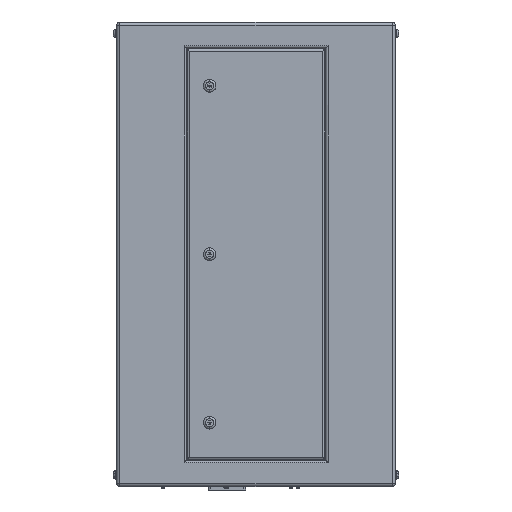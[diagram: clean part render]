
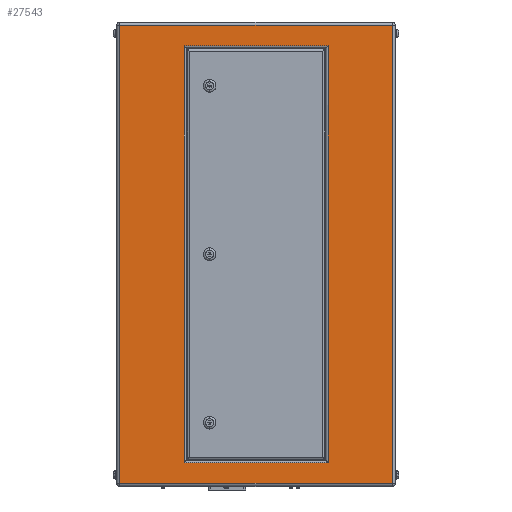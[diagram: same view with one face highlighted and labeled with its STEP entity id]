
A CAD part, left-side view. The second image highlights one B-rep face of the part: STEP entity #27543.
In plain terms, the highlighted planar face has unit normal (-1, 0, 0).
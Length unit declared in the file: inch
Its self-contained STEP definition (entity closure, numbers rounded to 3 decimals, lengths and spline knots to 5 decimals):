
#1008 = VECTOR ( 'NONE', #29456, 39.37008 ) ;
#1024 = CARTESIAN_POINT ( 'NONE',  ( -18., -11.734, -19.734 ) ) ;
#1830 = VERTEX_POINT ( 'NONE', #34546 ) ;
#2083 = ORIENTED_EDGE ( 'NONE', *, *, #27177, .T. ) ;
#2595 = EDGE_LOOP ( 'NONE', ( #3543, #12908, #31142, #10396 ) ) ;
#2892 = VERTEX_POINT ( 'NONE', #32557 ) ;
#3420 = CARTESIAN_POINT ( 'NONE',  ( -18., 6.2, -17.95 ) ) ;
#3543 = ORIENTED_EDGE ( 'NONE', *, *, #34071, .T. ) ;
#4670 = VECTOR ( 'NONE', #31566, 39.37008 ) ;
#4745 = EDGE_CURVE ( 'NONE', #2892, #26306, #34237, .T. ) ;
#5028 = VECTOR ( 'NONE', #30152, 39.37008 ) ;
#5393 = CARTESIAN_POINT ( 'NONE',  ( -18., 11.734, -19.734 ) ) ;
#5753 = VERTEX_POINT ( 'NONE', #16749 ) ;
#6389 = CARTESIAN_POINT ( 'NONE',  ( -18., 6.2, 17.75 ) ) ;
#7717 = VECTOR ( 'NONE', #29640, 39.37008 ) ;
#8129 = CARTESIAN_POINT ( 'NONE',  ( -18., 12., -19.734 ) ) ;
#9264 = VECTOR ( 'NONE', #16254, 39.37008 ) ;
#9566 = DIRECTION ( 'NONE',  ( 1., 0., 0. ) ) ;
#10246 = CARTESIAN_POINT ( 'NONE',  ( -18., -6.2, -17.95 ) ) ;
#10301 = DIRECTION ( 'NONE',  ( 0., 0., -1. ) ) ;
#10396 = ORIENTED_EDGE ( 'NONE', *, *, #36507, .T. ) ;
#11301 = VERTEX_POINT ( 'NONE', #5393 ) ;
#11856 = DIRECTION ( 'NONE',  ( 0., 0., 1. ) ) ;
#12908 = ORIENTED_EDGE ( 'NONE', *, *, #14608, .T. ) ;
#12949 = FACE_OUTER_BOUND ( 'NONE', #2595, .T. ) ;
#13519 = CARTESIAN_POINT ( 'NONE',  ( -18., -6.2, 17.95 ) ) ;
#14389 = CARTESIAN_POINT ( 'NONE',  ( -18., 6., -17.95 ) ) ;
#14608 = EDGE_CURVE ( 'NONE', #26510, #5753, #30439, .T. ) ;
#14759 = LINE ( 'NONE', #14389, #22171 ) ;
#15192 = PLANE ( 'NONE',  #34165 ) ;
#15581 = ORIENTED_EDGE ( 'NONE', *, *, #29249, .T. ) ;
#16254 = DIRECTION ( 'NONE',  ( 0., -1., 0. ) ) ;
#16749 = CARTESIAN_POINT ( 'NONE',  ( -18., -11.734, 19.734 ) ) ;
#16813 = CARTESIAN_POINT ( 'NONE',  ( -18., -6., 17.95 ) ) ;
#19160 = VERTEX_POINT ( 'NONE', #3420 ) ;
#20525 = VECTOR ( 'NONE', #24752, 39.37008 ) ;
#22171 = VECTOR ( 'NONE', #34839, 39.37008 ) ;
#23119 = EDGE_CURVE ( 'NONE', #5753, #1830, #35657, .T. ) ;
#23762 = CARTESIAN_POINT ( 'NONE',  ( -18., 11.734, -20. ) ) ;
#24752 = DIRECTION ( 'NONE',  ( 0., 0., 1. ) ) ;
#24788 = EDGE_LOOP ( 'NONE', ( #34562, #2083, #15581, #34739 ) ) ;
#26306 = VERTEX_POINT ( 'NONE', #13519 ) ;
#26510 = VERTEX_POINT ( 'NONE', #1024 ) ;
#27172 = EDGE_CURVE ( 'NONE', #19160, #2892, #34760, .T. ) ;
#27177 = EDGE_CURVE ( 'NONE', #26306, #28564, #29636, .T. ) ;
#27543 = ADVANCED_FACE ( 'NONE', ( #36035, #12949 ), #15192, .F. ) ;
#28564 = VERTEX_POINT ( 'NONE', #10246 ) ;
#29249 = EDGE_CURVE ( 'NONE', #28564, #19160, #14759, .T. ) ;
#29456 = DIRECTION ( 'NONE',  ( 0., 0., -1. ) ) ;
#29461 = LINE ( 'NONE', #23762, #7717 ) ;
#29636 = LINE ( 'NONE', #34952, #1008 ) ;
#29640 = DIRECTION ( 'NONE',  ( 0., 0., -1. ) ) ;
#30152 = DIRECTION ( 'NONE',  ( 0., 1., 0. ) ) ;
#30340 = CARTESIAN_POINT ( 'NONE',  ( -18., 12., -20. ) ) ;
#30439 = LINE ( 'NONE', #33097, #20525 ) ;
#31142 = ORIENTED_EDGE ( 'NONE', *, *, #23119, .T. ) ;
#31566 = DIRECTION ( 'NONE',  ( 0., -1., 0. ) ) ;
#32557 = CARTESIAN_POINT ( 'NONE',  ( -18., 6.2, 17.95 ) ) ;
#33097 = CARTESIAN_POINT ( 'NONE',  ( -18., -11.734, 19.734 ) ) ;
#33571 = VECTOR ( 'NONE', #11856, 39.37008 ) ;
#34071 = EDGE_CURVE ( 'NONE', #11301, #26510, #36344, .T. ) ;
#34165 = AXIS2_PLACEMENT_3D ( 'NONE', #30340, #9566, #10301 ) ;
#34237 = LINE ( 'NONE', #16813, #4670 ) ;
#34546 = CARTESIAN_POINT ( 'NONE',  ( -18., 11.734, 19.734 ) ) ;
#34562 = ORIENTED_EDGE ( 'NONE', *, *, #4745, .T. ) ;
#34739 = ORIENTED_EDGE ( 'NONE', *, *, #27172, .T. ) ;
#34760 = LINE ( 'NONE', #6389, #33571 ) ;
#34839 = DIRECTION ( 'NONE',  ( 0., 1., 0. ) ) ;
#34952 = CARTESIAN_POINT ( 'NONE',  ( -18., -6.2, -17.75 ) ) ;
#35657 = LINE ( 'NONE', #36399, #5028 ) ;
#36035 = FACE_BOUND ( 'NONE', #24788, .T. ) ;
#36344 = LINE ( 'NONE', #8129, #9264 ) ;
#36399 = CARTESIAN_POINT ( 'NONE',  ( -18., 12., 19.734 ) ) ;
#36507 = EDGE_CURVE ( 'NONE', #1830, #11301, #29461, .T. ) ;
